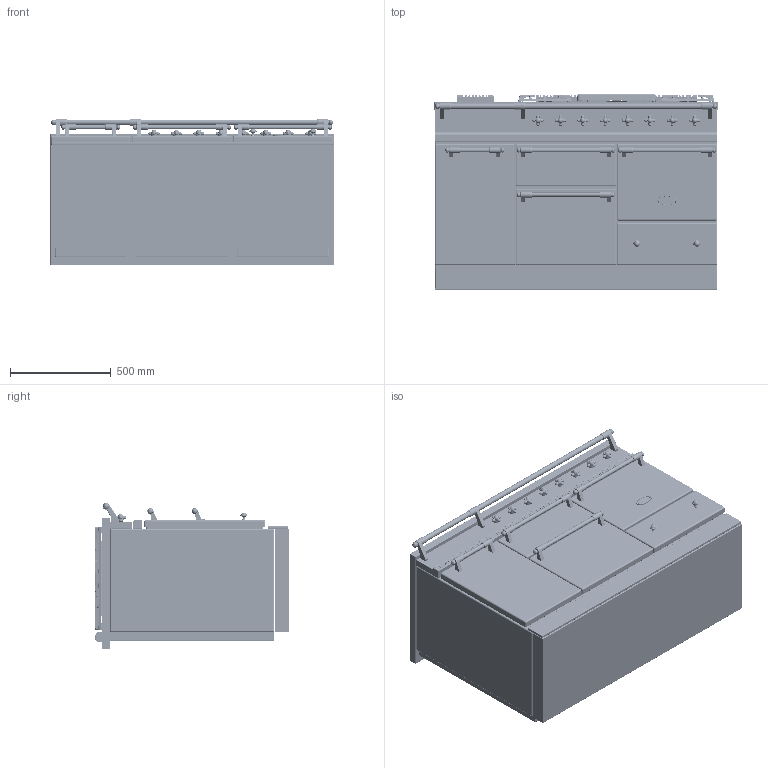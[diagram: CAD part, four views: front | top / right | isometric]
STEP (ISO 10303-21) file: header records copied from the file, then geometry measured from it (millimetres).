
FILE_DESCRIPTION((''),'2;1');
FILE_NAME('LCF1453G_ASM','2021-12-02T09:46:11',('j.cheno'),(''),'CREO PARAMETRIC BY PTC INC, 2017260','CREO PARAMETRIC BY PTC INC, 2017260','');
FILE_SCHEMA(('AP203_CONFIGURATION_CONTROLLED_3D_DESIGN_OF_MECHANICAL_PARTS_AND_ASSEMBLIES_MIM_LF { 1 0 10303 403 2 1 2 }'));
Products named in the file (29): BASE_EXPORT_CHAGNY_1400G; 65650003; 65650004; 65650007; 6531940; 6531941; 6531943; 65049009; 65650001; 6538399; 1931942; 65080022_AF0; 6531942_ASM; BASE_EXPORT_CHAGNY_1400G_ASM; TABLE_1405G_CLASSIQUE; 3KW; 5KW; 1_5KW; 4KW; 65062008; 65062012; 65149005; 90000549_ASM; 6537023; 90000565_ASM; CHEMINEE_2020_LG182_EXPORT_STEP; CHEMINEE_2020_LG371_EXPORT_STEP; TABLE_1405G_TRADITION_ASM; LCF1453G_ASM
Assembly tree (52 placements, depth 4):
  LCF1453G_ASM
    BASE_EXPORT_CHAGNY_1400G_ASM
      BASE_EXPORT_CHAGNY_1400G
      65650003
      65650004
      65650007
      6531940  x4
      6531941  x4
      6531943  x2
      65049009
      65650001
      6531942_ASM  x8
        6538399
        1931942
        65080022_AF0
    TABLE_1405G_TRADITION_ASM
      TABLE_1405G_CLASSIQUE
      3KW  x2
      5KW
      1_5KW
      4KW
      90000549_ASM
        65062008
        65062012
        65149005  x4
      90000565_ASM  x2
        6537023
        65149005
      CHEMINEE_2020_LG182_EXPORT_STEP
      CHEMINEE_2020_LG371_EXPORT_STEP  x2
Bounding box: 1405 x 967 x 724 mm (x, y, z)
Volume: 754111885 mm3; surface area: 11948478 mm2
Topology: 74 solids, 87 shells, 9857 faces, 25545 edges, 15867 vertices
Faces by surface type: plane 4650, cylinder 2774, bspline 1031, torus 431, sphere 348, cone 337, extrusion 266, revolution 20
Entity records: 237504 total; most frequent: CARTESIAN_POINT 62818, ORIENTED_EDGE 29290, DIRECTION 27133, EDGE_CURVE 14657, PRESENTATION_STYLE_ASSIGNMENT 9553, STYLED_ITEM 9530, VECTOR 9527, LINE 9477
